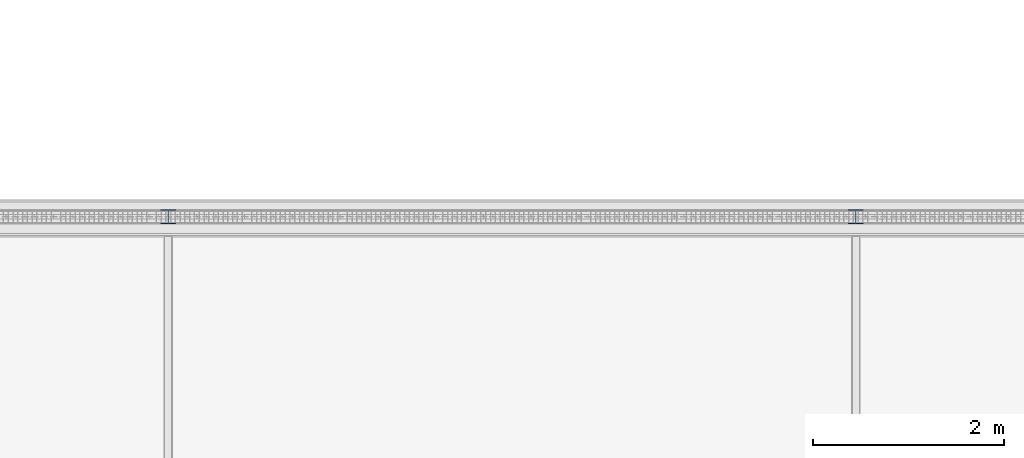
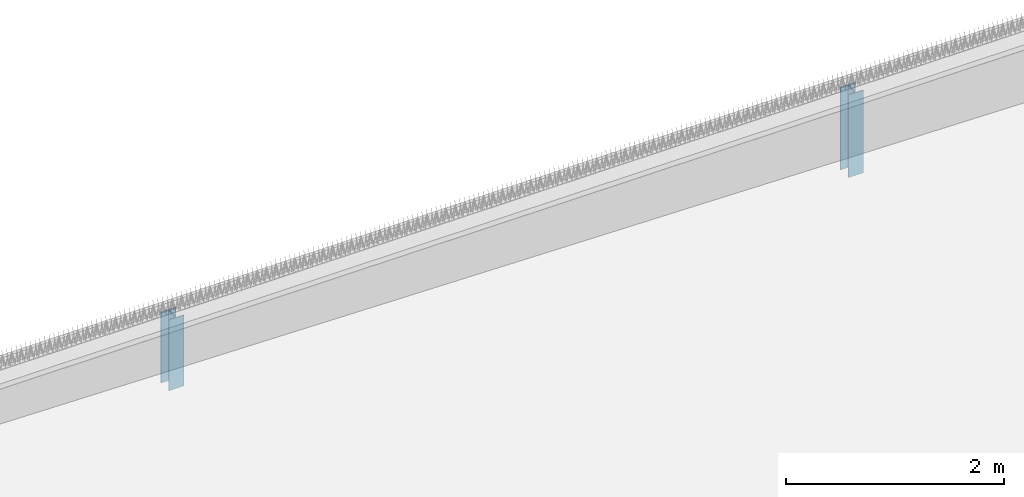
# One storey, part 27 of 81: 2 columns.
"""IFC2X3 building model written with IfcOpenShell, lengths in millimetres."""

from ifc_helpers import new_model, entity, si_unit, converted_unit, derived_unit, money_unit, direction, frame, origin_with_axes, place, context, subcontext, project, spatial, faceted_brep, material, type_object, element, save


model = new_model("IFC2X3")

# Units and contexts
model_context = context("Model", 3, precision=0.01, world=origin_with_axes(), true_north=direction((0.0, 1.0)))
body_context = subcontext(model_context, "Body", "Model", "MODEL_VIEW")
ifc_project = project(units=[si_unit("LENGTHUNIT", "METRE", prefix="MILLI"), si_unit("AREAUNIT", "SQUARE_METRE"), si_unit("VOLUMEUNIT", "CUBIC_METRE"), converted_unit("PLANEANGLEUNIT", "DEGREE", entity("IfcPlaneAngleMeasure", 0.0174532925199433), si_unit("PLANEANGLEUNIT", "RADIAN"), dimensions=[0, 0, 0, 0, 0, 0, 0]), money_unit("EUR"), converted_unit("TIMEUNIT", "Year", entity("IfcTimeMeasure", 31557600.0), si_unit("TIMEUNIT", "SECOND"), dimensions=[0, 0, 1, 0, 0, 0, 0]), si_unit("MASSUNIT", "GRAM", prefix="KILO"), si_unit("THERMODYNAMICTEMPERATUREUNIT", "DEGREE_CELSIUS"), si_unit("LUMINOUSINTENSITYUNIT", "LUMEN"), si_unit("ENERGYUNIT", "JOULE", prefix="MEGA"), derived_unit("THERMALCONDUCTANCEUNIT", [(si_unit("POWERUNIT", "WATT"), 1), (si_unit("LENGTHUNIT", "METRE"), -1), (si_unit("THERMODYNAMICTEMPERATUREUNIT", "KELVIN"), -1)]), derived_unit("SPECIFICHEATCAPACITYUNIT", [(si_unit("ENERGYUNIT", "JOULE"), 1), (si_unit("MASSUNIT", "GRAM", prefix="KILO"), -1), (si_unit("THERMODYNAMICTEMPERATUREUNIT", "KELVIN"), -1)]), derived_unit("MASSDENSITYUNIT", [(si_unit("MASSUNIT", "GRAM", prefix="KILO"), 1), (si_unit("VOLUMEUNIT", "CUBIC_METRE"), -1)])], contexts=[model_context])

# Site, building, storey
site_placement = place(None, origin_with_axes())
site = spatial("IfcSite", under=ifc_project, at=site_placement, Name="Site", CompositionType="ELEMENT")
building_placement = place(site_placement, origin_with_axes())
building = spatial("IfcBuilding", under=site, at=building_placement, Name="Naam gebouw", CompositionType="ELEMENT")
storey_placement = place(building_placement, frame((0.0, 0.0, 15320.0), z_axis=(0.0, 0.0, 1.0), x_axis=(1.0, 0.0, 0.0)))
storey = spatial("IfcBuildingStorey", under=building, at=storey_placement, Name="01 dak", CompositionType="ELEMENT", Elevation=15320.0)

# Columns
ifc_material = material(Name="Metaal - Staal C")
column_type = type_object("IfcColumnType", Name="HEA160 160 x 152", PredefinedType="COLUMN")
column_1_placement = place(storey_placement, frame((54099.99999999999, 94724.00000000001, -138.9176451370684), z_axis=(0.0, 0.0, 1.0), x_axis=(1.0, 0.0, 0.0)))
element("IfcColumn", 1, at=column_1_placement, inside=storey, type_object=column_type, material=ifc_material, Name="HEA160", ObjectType="COLUMN", context=body_context, shape_type="Brep", body=[
    faceted_brep([(-79.9999999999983, 75.9999999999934, 793.8782854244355), (-79.9999999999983, 75.9999999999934, 0.0), (-79.9999999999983, 66.99999999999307, 0.0), (-79.9999999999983, 66.99999999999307, 793.8782854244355), (79.9999999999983, 75.9999999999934, 793.8782854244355), (79.9999999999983, 75.9999999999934, 0.0), (79.9999999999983, 66.99999999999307, 0.0), (3.000000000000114, 66.99999999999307, 0.0), (3.000000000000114, -66.99999999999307, 0.0), (79.9999999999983, -66.99999999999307, 0.0), (79.9999999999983, -75.9999999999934, 0.0), (-79.9999999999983, -75.9999999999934, 0.0), (-79.9999999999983, -66.99999999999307, 0.0), (-3.000000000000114, -66.99999999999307, 0.0), (-3.000000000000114, 66.99999999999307, 0.0), (-3.000000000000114, 66.99999999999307, 793.8782854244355), (-3.000000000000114, -66.99999999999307, 793.8782854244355), (-79.9999999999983, -66.99999999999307, 793.8782854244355), (-79.9999999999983, -75.9999999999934, 793.8782854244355), (79.9999999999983, -75.9999999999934, 793.8782854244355), (79.9999999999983, -66.99999999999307, 793.8782854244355), (3.000000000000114, -66.99999999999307, 793.8782854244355), (3.000000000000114, 66.99999999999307, 793.8782854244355), (79.9999999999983, 66.99999999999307, 793.8782854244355)], [[[0, 1, 2, 3]], [[4, 5, 1, 0]], [[2, 1, 5, 6, 7, 8, 9, 10, 11, 12, 13, 14]], [[3, 2, 14, 15]], [[4, 0, 3, 15, 16, 17, 18, 19, 20, 21, 22, 23]], [[23, 6, 5, 4]], [[22, 7, 6, 23]], [[21, 8, 7, 22]], [[20, 9, 8, 21]], [[19, 10, 9, 20]], [[18, 11, 10, 19]], [[17, 12, 11, 18]], [[16, 13, 12, 17]], [[15, 14, 13, 16]]]),
])
column_2_placement = place(storey_placement, frame((61300.0, 94724.00000000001, -272.1363728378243), z_axis=(0.0, 0.0, 1.0), x_axis=(1.0, 0.0, 0.0)))
element("IfcColumn", 2, at=column_2_placement, inside=storey, type_object=column_type, material=ifc_material, Name="HEA160", ObjectType="COLUMN", context=body_context, shape_type="Brep", body=[
    faceted_brep([(-79.9999999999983, 75.9999999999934, 927.0970131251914), (-79.9999999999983, 75.9999999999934, 0.0), (-79.9999999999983, 66.99999999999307, 0.0), (-79.9999999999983, 66.99999999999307, 927.0970131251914), (79.9999999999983, 75.9999999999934, 927.0970131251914), (79.9999999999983, 75.9999999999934, 0.0), (79.9999999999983, 66.99999999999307, 0.0), (3.000000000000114, 66.99999999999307, 0.0), (3.000000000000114, -66.99999999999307, 0.0), (79.9999999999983, -66.99999999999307, 0.0), (79.9999999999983, -75.9999999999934, 0.0), (-79.9999999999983, -75.9999999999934, 0.0), (-79.9999999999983, -66.99999999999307, 0.0), (-3.000000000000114, -66.99999999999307, 0.0), (-3.000000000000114, 66.99999999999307, 0.0), (-3.000000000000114, 66.99999999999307, 927.0970131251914), (-3.000000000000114, -66.99999999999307, 927.0970131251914), (-79.9999999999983, -66.99999999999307, 927.0970131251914), (-79.9999999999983, -75.9999999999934, 927.0970131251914), (79.9999999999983, -75.9999999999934, 927.0970131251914), (79.9999999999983, -66.99999999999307, 927.0970131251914), (3.000000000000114, -66.99999999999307, 927.0970131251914), (3.000000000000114, 66.99999999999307, 927.0970131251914), (79.9999999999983, 66.99999999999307, 927.0970131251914)], [[[0, 1, 2, 3]], [[4, 5, 1, 0]], [[2, 1, 5, 6, 7, 8, 9, 10, 11, 12, 13, 14]], [[3, 2, 14, 15]], [[4, 0, 3, 15, 16, 17, 18, 19, 20, 21, 22, 23]], [[23, 6, 5, 4]], [[22, 7, 6, 23]], [[21, 8, 7, 22]], [[20, 9, 8, 21]], [[19, 10, 9, 20]], [[18, 11, 10, 19]], [[17, 12, 11, 18]], [[16, 13, 12, 17]], [[15, 14, 13, 16]]]),
])

save(model, "model.ifc")
